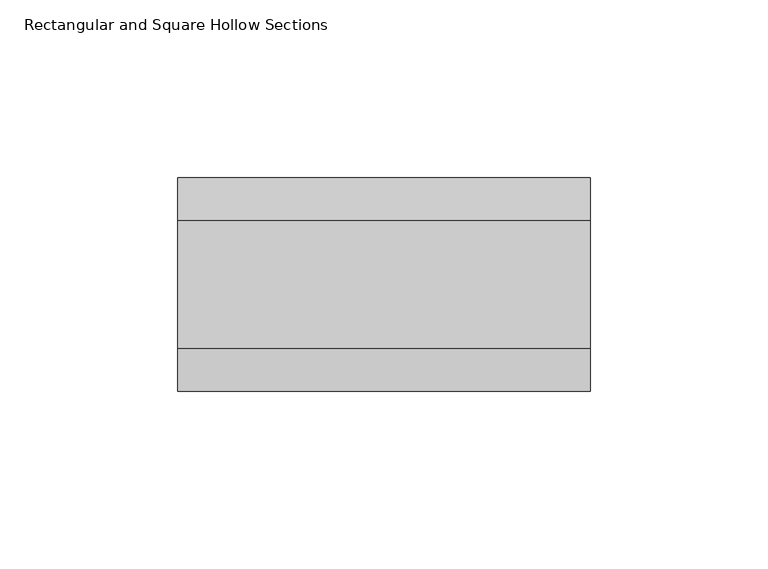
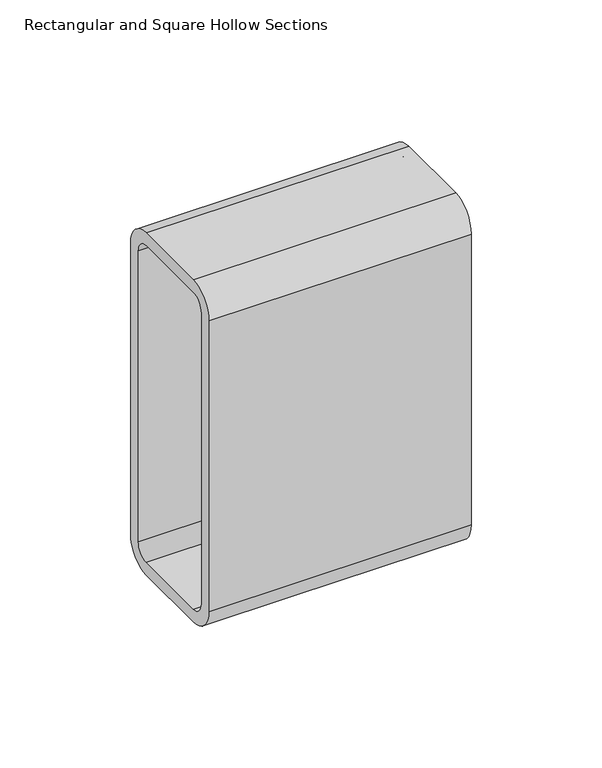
"""IFC4 building model written with IfcOpenShell, lengths in millimetres: beam geometry, Rectangular and Square Hollow Sections : TREC160x60x6."""

from ifc_helpers import new_model, si_unit, point, frame, frame_2d, origin, place, context, project, spatial, polyline, circle_curve, trimmed, segment, composite_curve, outline, extrude, source, transform, mapped, element, save


def rectangular_and_square_hollow_sections_aa6a9ac2(model_context):
    return source(origin(), model_context, "Body", "SweptSolid", [
        extrude(outline(composite_curve([segment(polyline([(30.0, 68.0), (30.0, -68.0)]), True, "CONTINUOUS"), segment(trimmed(circle_curve(frame_2d((18.0, -68.0)), 12.0), [point((30.0, -68.0))], [point((18.0, -80.0))], False, "CARTESIAN"), True, "CONTINUOUS"), segment(polyline([(18.0, -80.0), (-18.0, -80.0)]), True, "CONTINUOUS"), segment(trimmed(circle_curve(frame_2d((-18.0, -68.0)), 12.0), [point((-18.0, -80.0))], [point((-30.0, -68.0))], False, "CARTESIAN"), True, "CONTINUOUS"), segment(polyline([(-30.0, -68.0), (-30.0, 68.0)]), True, "CONTINUOUS"), segment(trimmed(circle_curve(frame_2d((-18.0, 68.0)), 12.0), [point((-30.0, 68.0))], [point((-18.0, 80.0))], False, "CARTESIAN"), True, "CONTINUOUS"), segment(polyline([(-18.0, 80.0), (18.0, 80.0)]), True, "CONTINUOUS"), segment(trimmed(circle_curve(frame_2d((18.0, 68.0)), 12.0), [point((18.0, 80.0))], [point((30.0, 68.0))], False, "CARTESIAN"), True, "CONTINUOUS")], self_intersect=False), holes=[composite_curve([segment(trimmed(circle_curve(frame_2d((-18.0, 68.0)), 6.0), [point((-18.0, 74.0))], [point((-24.0, 68.0))], True, "CARTESIAN"), True, "CONTINUOUS"), segment(polyline([(-24.0, 68.0), (-24.0, -68.0)]), True, "CONTINUOUS"), segment(trimmed(circle_curve(frame_2d((-18.0, -68.0)), 6.0), [point((-24.0, -68.0))], [point((-18.0, -74.0))], True, "CARTESIAN"), True, "CONTINUOUS"), segment(polyline([(-18.0, -74.0), (18.0, -74.0)]), True, "CONTINUOUS"), segment(trimmed(circle_curve(frame_2d((18.0, -68.0)), 6.0), [point((18.0, -74.0))], [point((24.0, -68.0))], True, "CARTESIAN"), True, "CONTINUOUS"), segment(polyline([(24.0, -68.0), (24.0, 68.0)]), True, "CONTINUOUS"), segment(trimmed(circle_curve(frame_2d((18.0, 68.0)), 6.0), [point((24.0, 68.0))], [point((18.0, 74.0))], True, "CARTESIAN"), True, "CONTINUOUS"), segment(polyline([(18.0, 74.0), (-18.0, 74.0)]), True, "CONTINUOUS")], self_intersect=False)]), frame((-58.0, 0.0, 0.0), z_axis=(1.0, 0.0, 0.0), x_axis=(0.0, 1.0, 0.0)), (0.0, 0.0, 1.0), 116.0),
    ])


if __name__ == "__main__":
    model = new_model("IFC4")
    model_context = context("Model", 3, world=origin())
    ifc_project = project(units=[si_unit("LENGTHUNIT", "METRE", prefix="MILLI")], contexts=[model_context])
    site = spatial("IfcSite", under=ifc_project)
    building = spatial("IfcBuilding", under=site)
    placement = place(None, origin())
    rectangular_and_square_hollow_sections_shape = rectangular_and_square_hollow_sections_aa6a9ac2(model_context)
    element("IfcBeam", 1, ObjectType="Rectangular and Square Hollow Sections : TREC160x60x6", at=placement, inside=building, context=model_context, shape_type="MappedRepresentation", body=[
        mapped(rectangular_and_square_hollow_sections_shape, transform((0.0, 0.0, 0.0), x_axis=(1.0, 0.0, 0.0), y_axis=(0.0, 1.0, 0.0), z_axis=(0.0, 0.0, 1.0))),
    ])
    save(model, "model.ifc")
